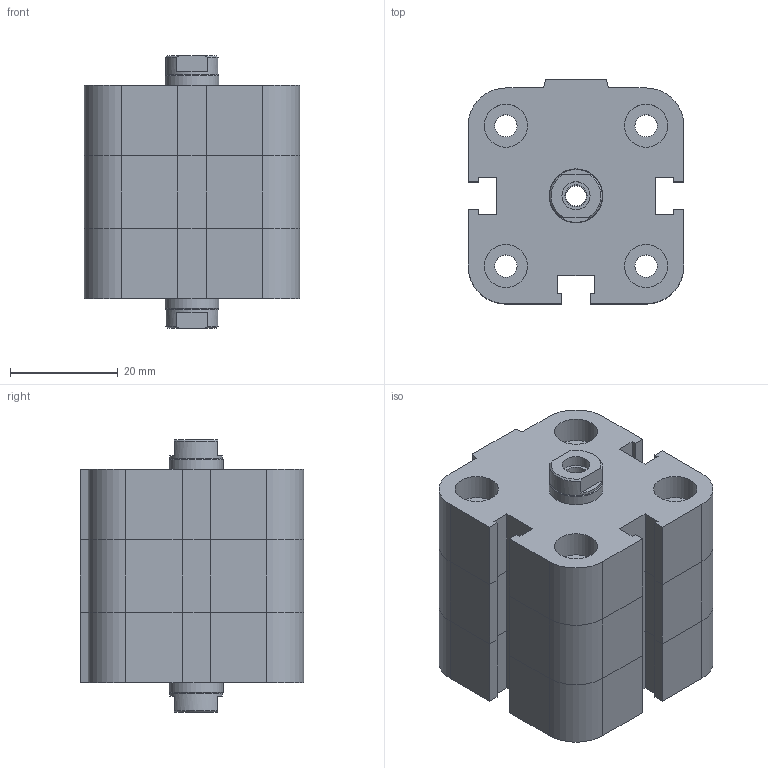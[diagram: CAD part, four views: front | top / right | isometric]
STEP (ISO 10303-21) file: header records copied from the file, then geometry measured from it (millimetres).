
FILE_DESCRIPTION((''),'2;1');
FILE_NAME('I:\Area Tecnica\Disegni\VARIE-3D\Componenti\EUROPE\15##_###_####_06_#\1581_25_0000_06_1.iam.stp','2009-04-20T15:08:58',(''),(''),'Autodesk Inventor 2009','Autodesk Inventor 2009','');
FILE_SCHEMA(('AUTOMOTIVE_DESIGN { 1 0 10303 214 1 1 1 1 }'));
Length unit declared in the file: millimetre
Products named in the file (3): 1581_25_0000_06_1; 1581_25_0000_03_1_C; 1561_25_0000_06_1_S
Assembly tree (2 placements, depth 2):
  1581_25_0000_06_1
    1581_25_0000_03_1_C
    1561_25_0000_06_1_S
Bounding box: 40 x 41.5 x 50.5 mm (x, y, z)
Volume: 54785.8 mm3; surface area: 16498.4 mm2
Topology: 2 solids, 2 shells, 163 faces, 362 edges, 217 vertices
Faces by surface type: plane 110, bspline 26, cylinder 21, cone 6
Full cylindrical faces by diameter (mm): 4.134 x1, 5.2 x1, 8 x4, 9.8 x2, 10 x1
Entity records: 4609 total; most frequent: CARTESIAN_POINT 1002, DIRECTION 680, ORIENTED_EDGE 664, EDGE_CURVE 332, VECTOR 252, LINE 252, AXIS2_PLACEMENT_3D 214, EDGE_LOOP 214
